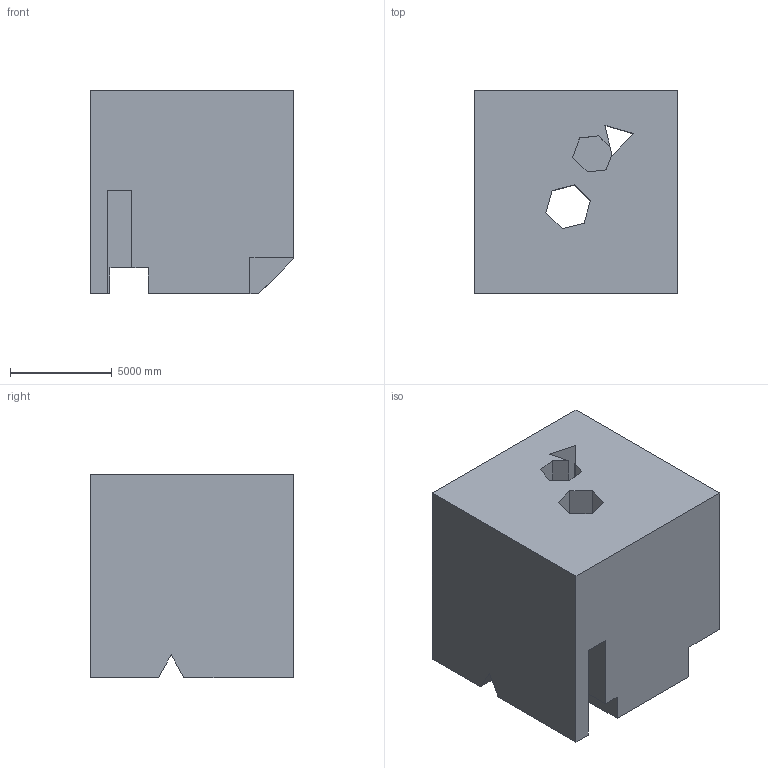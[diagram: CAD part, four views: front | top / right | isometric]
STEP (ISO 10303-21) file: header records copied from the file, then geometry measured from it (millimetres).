
FILE_DESCRIPTION (( 'STEP AP203' ), '1' );
FILE_NAME ('774.STEP', '2022-08-05T15:21:55', ( 'user' ), ( '' ), 'SwSTEP 2.0', 'SolidWorks 2021', '' );
FILE_SCHEMA (( 'CONFIG_CONTROL_DESIGN' ));
Length unit declared in the file: centimetre
Products named in the file (1): 774
Bounding box: 10000 x 10000 x 10000 mm (x, y, z)
Volume: 889412873419.4 mm3; surface area: 747437517.4 mm2
Topology: 1 solids, 1 shells, 40 faces, 114 edges, 76 vertices
Faces by surface type: plane 40
Entity records: 1363 total; most frequent: CARTESIAN_POINT 231, ORIENTED_EDGE 228, DIRECTION 196, LINE 114, VECTOR 114, EDGE_CURVE 114, VERTEX_POINT 76, EDGE_LOOP 44
